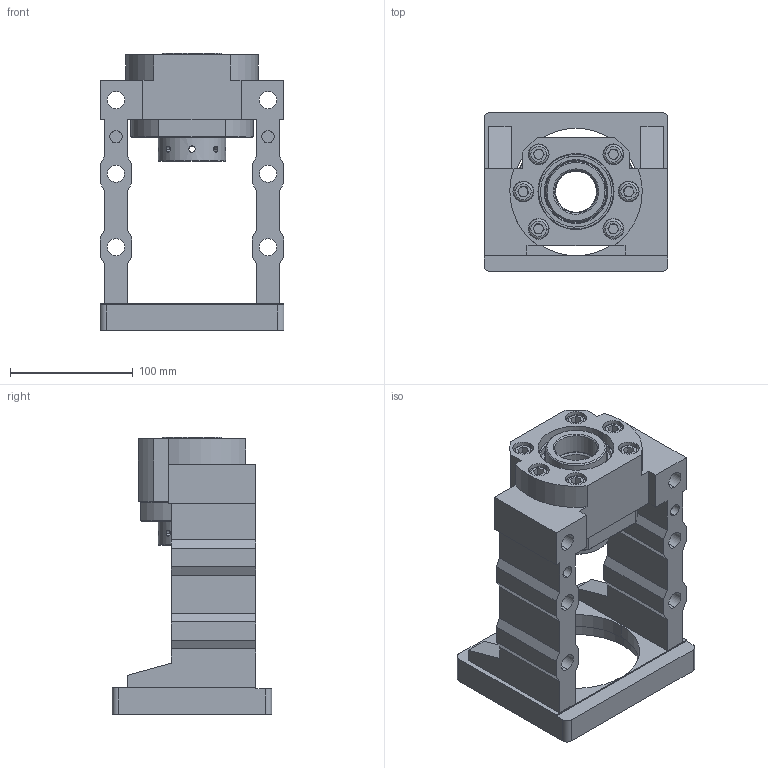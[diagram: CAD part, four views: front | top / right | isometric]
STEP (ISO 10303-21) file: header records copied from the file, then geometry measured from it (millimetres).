
FILE_DESCRIPTION (( 'STEP AP203' ), '1' );
FILE_NAME ('MBCS35-G²Õ¦X¥ó.STEP', '2022-10-20T06:39:24', ( '' ), ( '' ), 'SwSTEP 2.0', 'SolidWorks 2018', '' );
FILE_SCHEMA (( 'CONFIG_CONTROL_DESIGN' ));
Length unit declared in the file: millimetre
Products named in the file (1): MBCS35-G組合件
Bounding box: 150 x 130 x 226 mm (x, y, z)
Surface area: 209659.3 mm2 (no closed solid volume)
Topology: 0 solids, 22 shells, 354 faces, 989 edges, 651 vertices
Faces by surface type: plane 132, cylinder 124, cone 66, torus 20, bspline 12
Entity records: 26918 total; most frequent: CARTESIAN_POINT 17827, DIRECTION 1920, ORIENTED_EDGE 1730, EDGE_CURVE 981, AXIS2_PLACEMENT_3D 726, VERTEX_POINT 651, LINE 468, VECTOR 468
